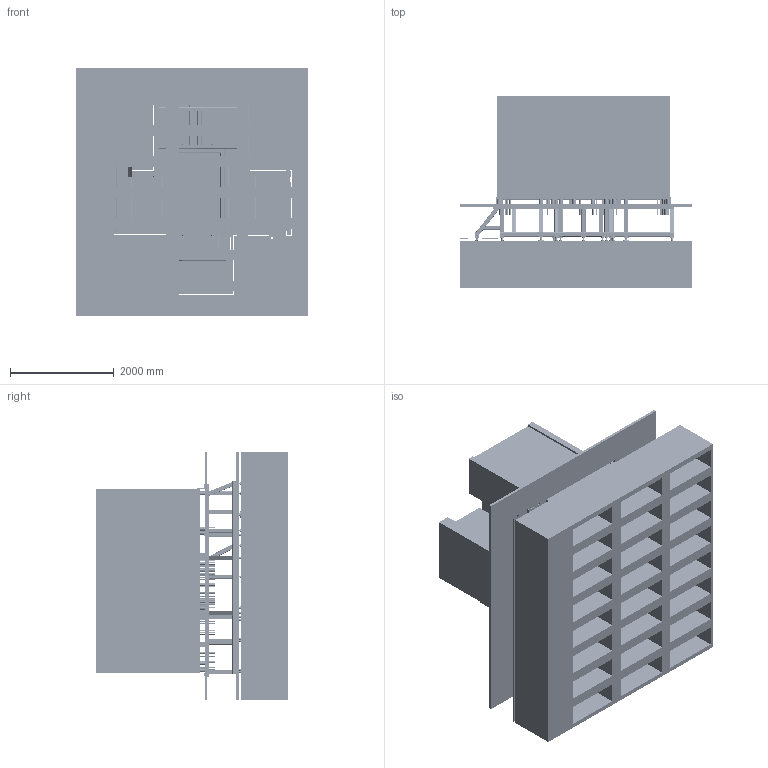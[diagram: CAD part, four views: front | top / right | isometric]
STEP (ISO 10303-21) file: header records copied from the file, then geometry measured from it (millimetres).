
FILE_DESCRIPTION (( 'STEP AP214' ), '1' );
FILE_NAME ('PIC-LAM_MACH4B-00-3D-MODEL-indB.STEP', '2025-10-31T17:52:47', ( '' ), ( '' ), 'SwSTEP 2.0', 'SolidWorks 2017', '' );
FILE_SCHEMA (( 'AUTOMOTIVE_DESIGN' ));
Length unit declared in the file: millimetre
Products named in the file (25): z_NUT_H_NUT H M 10; z_Screw_H_SCREW H M10x50-26; Z-Nut_H_CL8_ZN_NUT Hm M 30 - ISO 4035; z_Washer_WASHER M 12; PIC-LAM_MACH4B-ESQ-CEA; Z-M12 ASSY-2_M12-88; Z-Tige filetée - M12_M12-130; z_NUT_H_NUT H M 12; PIC-LAM_MACH4A-FP; PIC-LAM_MACH4A-05_ECRO; Z-M10 assy_M10-50; z_Washer_WASHER M 10; PIC-LAM_MACH4B-03; PIC-LAM_MACH4A-05; PIC-LAM_MACH4B-ESQ-EQUIPEMENT_D‚faut<Brut d''usinage>; PIC-LAM_MACH4B-ESQ-SIMPLIFIE_D‚faut<Brut d''usinage>; Z-M12 ASSY-2_150; PIC-LAM_MACH4B-04; PIC-LAM_MACH4A-05_upn; Z-Tige filetée - M12_M12x200; Z-screw_din_933-m30x120-08-5; PIC-LAM_MACH4B-02_D‚faut<Brut d''usinage>; PIC-LAM_MACH4A-BETON; PIC-LAM_MACH4B-00-3D-MODEL-indB
Assembly tree (119 placements, depth 3):
  PIC-LAM_MACH4B-ESQ-CEA
  PIC-LAM_MACH4B-ESQ-SIMPLIFIE_D‚faut<Brut d''usinage>
  PIC-LAM_MACH4B-00-3D-MODEL-indB
    PIC-LAM_MACH4B-ESQ-EQUIPEMENT_D‚faut<Brut d''usinage>
    PIC-LAM_MACH4A-BETON
    PIC-LAM_MACH4A-FP
    PIC-LAM_MACH4B-02_D‚faut<Brut d''usinage>
    PIC-LAM_MACH4A-05  x28
      PIC-LAM_MACH4A-05
      Z-Nut_H_CL8_ZN_NUT Hm M 30 - ISO 4035
      Z-screw_din_933-m30x120-08-5
    PIC-LAM_MACH4A-05_ECRO
      PIC-LAM_MACH4A-05
      Z-Nut_H_CL8_ZN_NUT Hm M 30 - ISO 4035  x2
      Z-screw_din_933-m30x120-08-5
    PIC-LAM_MACH4B-03
    Z-M10 assy_M10-50  x40
      z_Screw_H_SCREW H M10x50-26
      z_Washer_WASHER M 10
    Z-M12 ASSY-2_150  x16
      Z-Tige filetée - M12_M12x200
      z_Washer_WASHER M 12
      z_NUT_H_NUT H M 12
    Z-M12 ASSY-2_M12-88  x4
      Z-Tige filetée - M12_M12-130
      z_Washer_WASHER M 12
      z_NUT_H_NUT H M 12
    PIC-LAM_MACH4B-04
    z_NUT_H_NUT H M 10
    PIC-LAM_MACH4A-05_upn
      PIC-LAM_MACH4A-05
      Z-Nut_H_CL8_ZN_NUT Hm M 30 - ISO 4035
      Z-screw_din_933-m30x120-08-5
Bounding box: 4500 x 3710 x 4800 mm (x, y, z)
Volume: 24376992591.7 mm3; surface area: 289150228.2 mm2
Topology: 656 solids, 656 shells, 10678 faces, 25865 edges, 16595 vertices
Faces by surface type: plane 4384, cylinder 4250, cone 1984, bspline 60
Entity records: 219924 total; most frequent: CARTESIAN_POINT 37449, DIRECTION 34860, ORIENTED_EDGE 33088, EDGE_CURVE 16544, AXIS2_PLACEMENT_3D 12541, VERTEX_POINT 10918, LINE 9778, VECTOR 9778
